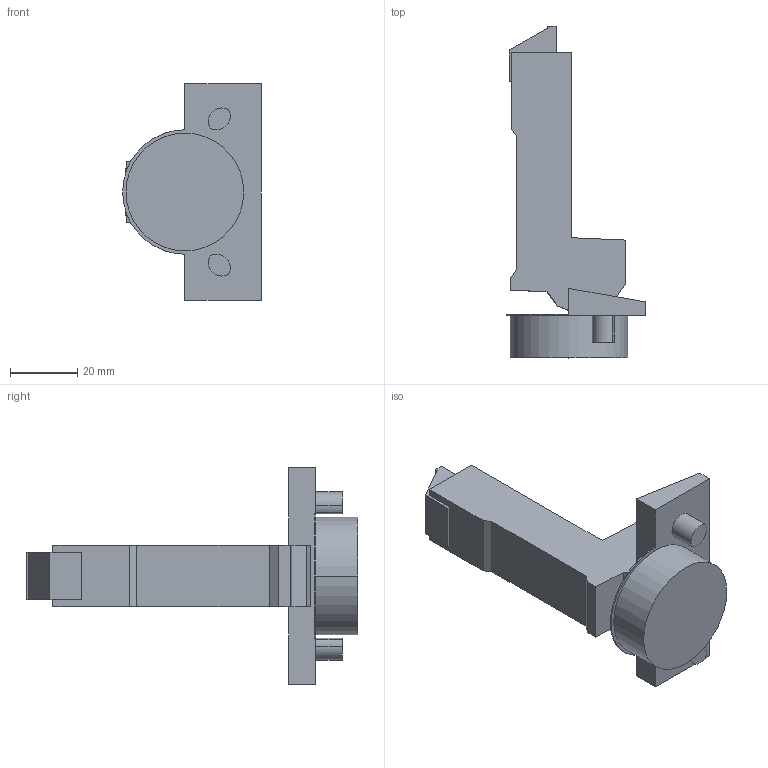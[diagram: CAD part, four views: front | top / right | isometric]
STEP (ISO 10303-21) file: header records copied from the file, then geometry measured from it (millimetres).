
FILE_DESCRIPTION (( 'STEP AP214' ), '1' );
FILE_NAME ('Scharnier TS Impresso 95° GB_BB, K19.step', '2018-10-02T12:12:26', ( '' ), ( '' ), 'SwSTEP 2.0', 'SolidWorks 2017', '' );
FILE_SCHEMA (( 'AUTOMOTIVE_DESIGN' ));
Length unit declared in the file: millimetre
Products named in the file (1): Scharnier TS Impresso 95° GB_BB, K19
Bounding box: 41.25 x 98.7 x 64.5 mm (x, y, z)
Volume: 49633.9 mm3; surface area: 13408.9 mm2
Topology: 1 solids, 1 shells, 55 faces, 141 edges, 94 vertices
Faces by surface type: plane 39, cylinder 16
Entity records: 1701 total; most frequent: CARTESIAN_POINT 291, DIRECTION 285, ORIENTED_EDGE 282, EDGE_CURVE 141, VECTOR 109, LINE 109, VERTEX_POINT 94, AXIS2_PLACEMENT_3D 88
